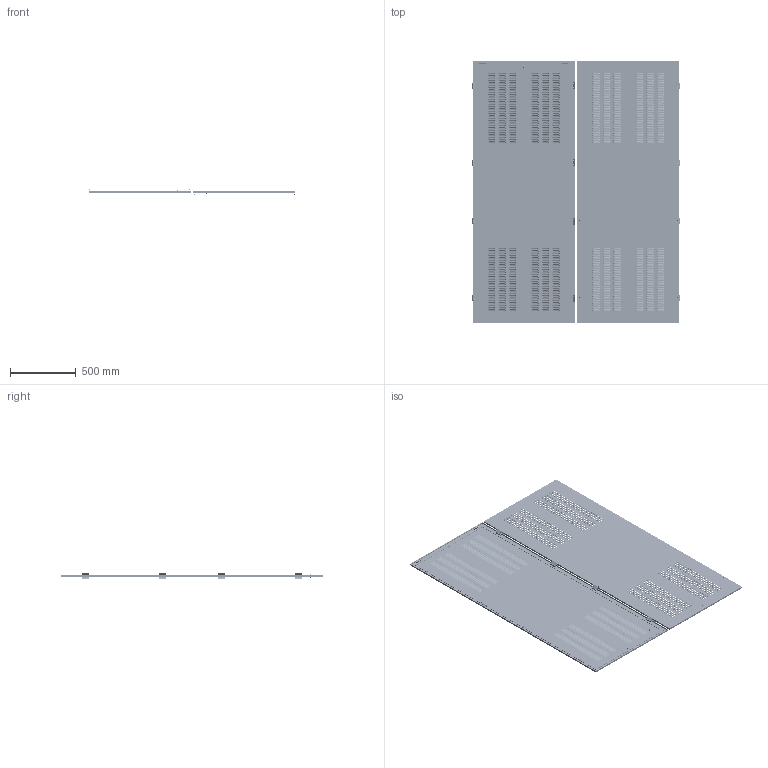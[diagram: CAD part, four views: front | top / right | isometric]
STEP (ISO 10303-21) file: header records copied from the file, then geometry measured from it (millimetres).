
FILE_DESCRIPTION (( 'STEP AP214' ), '1' );
FILE_NAME ('FO-00-PSV-200-080-31 Ïàíåëü áîêîâàÿ âåíòèëèðóåìàÿ 2000õ800ìì IP31 (êîìïë).STEP', '2025-08-20T08:47:35', ( '' ), ( '' ), 'SwSTEP 2.0', 'SolidWorks 2023', '' );
FILE_SCHEMA (( 'AUTOMOTIVE_DESIGN' ));
Products named in the file (2): FO-00-PSV-200-080-31 Панель боковая вентилируемая 2000х800мм IP31; FO-00-PSV-200-080-31 Панель боковая вентилируемая 2000х800мм IP31 (компл)
Assembly tree (2 placements, depth 2):
  FO-00-PSV-200-080-31 Панель боковая вентилируемая 2000х800мм IP31 (компл)
    FO-00-PSV-200-080-31 Панель боковая вентилируемая 2000х800мм IP31  x2
Bounding box: 1577.36 x 2000 x 52.05 mm (x, y, z)
Volume: 5243839.8 mm3; surface area: 6920221.3 mm2
Topology: 2 solids, 2 shells, 13950 faces, 36706 edges, 22886 vertices
Faces by surface type: torus 5472, plane 4096, cylinder 3918, cone 464
Entity records: 220611 total; most frequent: DIRECTION 44061, CARTESIAN_POINT 36791, ORIENTED_EDGE 36706, AXIS2_PLACEMENT_3D 18733, EDGE_CURVE 18353, CIRCLE 11753, VERTEX_POINT 11443, EDGE_LOOP 7790
